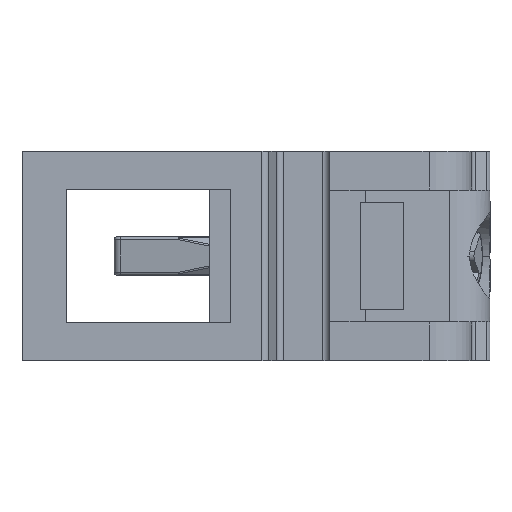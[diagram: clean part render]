
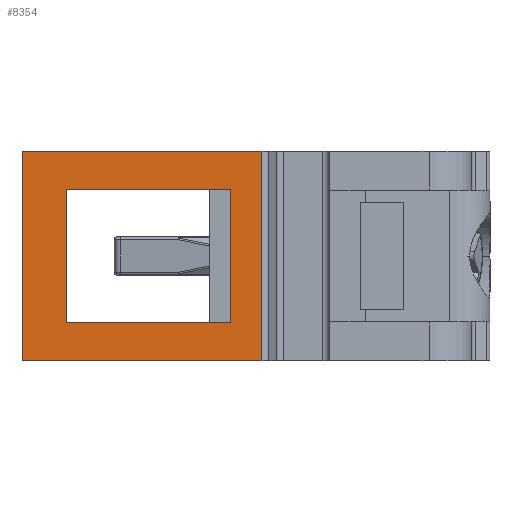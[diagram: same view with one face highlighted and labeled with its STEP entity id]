
A CAD part, left-side view. The second image highlights one B-rep face of the part: STEP entity #8354.
In plain terms, the highlighted planar face has unit normal (-1, 0, 0).
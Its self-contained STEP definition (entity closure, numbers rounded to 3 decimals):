
#47 = EDGE_LOOP ( 'NONE', ( #3746, #9221, #2191, #359 ) ) ;
#337 = VERTEX_POINT ( 'NONE', #1278 ) ;
#359 = ORIENTED_EDGE ( 'NONE', *, *, #8334, .T. ) ;
#480 = CARTESIAN_POINT ( 'NONE',  ( -17.5, 0., 4.7 ) ) ;
#800 = CARTESIAN_POINT ( 'NONE',  ( -17.5, 14.7, -7.4 ) ) ;
#914 = VERTEX_POINT ( 'NONE', #5639 ) ;
#1269 = CARTESIAN_POINT ( 'NONE',  ( -17.5, 11.55, -4.7 ) ) ;
#1278 = CARTESIAN_POINT ( 'NONE',  ( -17.5, 14.7, -7.4 ) ) ;
#1473 = VERTEX_POINT ( 'NONE', #1269 ) ;
#1784 = CARTESIAN_POINT ( 'NONE',  ( -17.5, 14.7, 7.4 ) ) ;
#1801 = VECTOR ( 'NONE', #10841, 1000. ) ;
#2105 = DIRECTION ( 'NONE',  ( -1., 0., 0. ) ) ;
#2144 = ORIENTED_EDGE ( 'NONE', *, *, #6770, .T. ) ;
#2191 = ORIENTED_EDGE ( 'NONE', *, *, #8098, .T. ) ;
#2198 = CARTESIAN_POINT ( 'NONE',  ( -17.5, -2.216, 7.4 ) ) ;
#2471 = CARTESIAN_POINT ( 'NONE',  ( -17.5, 0., 4.7 ) ) ;
#2475 = LINE ( 'NONE', #800, #9060 ) ;
#2808 = CARTESIAN_POINT ( 'NONE',  ( -17.5, 11.55, -4.7 ) ) ;
#3037 = VECTOR ( 'NONE', #8425, 1000. ) ;
#3365 = DIRECTION ( 'NONE',  ( 0., 0., -1. ) ) ;
#3396 = ORIENTED_EDGE ( 'NONE', *, *, #7280, .F. ) ;
#3685 = VERTEX_POINT ( 'NONE', #480 ) ;
#3705 = DIRECTION ( 'NONE',  ( 0., 1., 0. ) ) ;
#3746 = ORIENTED_EDGE ( 'NONE', *, *, #6214, .T. ) ;
#3840 = PLANE ( 'NONE',  #10777 ) ;
#4113 = LINE ( 'NONE', #6285, #8614 ) ;
#4340 = CARTESIAN_POINT ( 'NONE',  ( -17.5, -2.216, 7.4 ) ) ;
#4392 = DIRECTION ( 'NONE',  ( 0., 0., 1. ) ) ;
#4765 = DIRECTION ( 'NONE',  ( 0., -1., 0. ) ) ;
#4767 = ORIENTED_EDGE ( 'NONE', *, *, #7558, .T. ) ;
#4860 = LINE ( 'NONE', #10314, #11314 ) ;
#4894 = CARTESIAN_POINT ( 'NONE',  ( -17.5, 11.55, 4.7 ) ) ;
#5413 = LINE ( 'NONE', #2198, #3037 ) ;
#5639 = CARTESIAN_POINT ( 'NONE',  ( -17.5, 0., -4.7 ) ) ;
#5653 = CARTESIAN_POINT ( 'NONE',  ( -17.5, -2.216, -7.4 ) ) ;
#5792 = VECTOR ( 'NONE', #3705, 1000. ) ;
#5993 = FACE_OUTER_BOUND ( 'NONE', #6481, .T. ) ;
#6214 = EDGE_CURVE ( 'NONE', #3685, #914, #7089, .T. ) ;
#6266 = FACE_BOUND ( 'NONE', #47, .T. ) ;
#6285 = CARTESIAN_POINT ( 'NONE',  ( -17.5, -2.216, -7.4 ) ) ;
#6465 = CARTESIAN_POINT ( 'NONE',  ( -17.5, 11.55, 4.7 ) ) ;
#6481 = EDGE_LOOP ( 'NONE', ( #4767, #10304, #3396, #2144 ) ) ;
#6496 = EDGE_CURVE ( 'NONE', #914, #1473, #9708, .T. ) ;
#6770 = EDGE_CURVE ( 'NONE', #337, #10979, #4860, .T. ) ;
#6851 = LINE ( 'NONE', #6465, #1801 ) ;
#6938 = VERTEX_POINT ( 'NONE', #1784 ) ;
#7068 = EDGE_CURVE ( 'NONE', #6938, #9320, #5413, .T. ) ;
#7089 = LINE ( 'NONE', #2471, #8911 ) ;
#7280 = EDGE_CURVE ( 'NONE', #337, #6938, #2475, .T. ) ;
#7440 = CARTESIAN_POINT ( 'NONE',  ( -17.5, -2.216, -7.4 ) ) ;
#7558 = EDGE_CURVE ( 'NONE', #10979, #9320, #4113, .T. ) ;
#8098 = EDGE_CURVE ( 'NONE', #1473, #8718, #10416, .T. ) ;
#8334 = EDGE_CURVE ( 'NONE', #8718, #3685, #6851, .T. ) ;
#8354 = ADVANCED_FACE ( 'NONE', ( #5993, #6266 ), #3840, .T. ) ;
#8425 = DIRECTION ( 'NONE',  ( 0., -1., 0. ) ) ;
#8614 = VECTOR ( 'NONE', #9016, 1000. ) ;
#8718 = VERTEX_POINT ( 'NONE', #4894 ) ;
#8911 = VECTOR ( 'NONE', #3365, 1000. ) ;
#9016 = DIRECTION ( 'NONE',  ( 0., 0., 1. ) ) ;
#9060 = VECTOR ( 'NONE', #4392, 1000. ) ;
#9221 = ORIENTED_EDGE ( 'NONE', *, *, #6496, .T. ) ;
#9318 = CARTESIAN_POINT ( 'NONE',  ( -17.5, 11.55, 4.7 ) ) ;
#9320 = VERTEX_POINT ( 'NONE', #4340 ) ;
#9708 = LINE ( 'NONE', #2808, #5792 ) ;
#10140 = DIRECTION ( 'NONE',  ( 0., 0., 1. ) ) ;
#10159 = VECTOR ( 'NONE', #10140, 1000. ) ;
#10304 = ORIENTED_EDGE ( 'NONE', *, *, #7068, .F. ) ;
#10314 = CARTESIAN_POINT ( 'NONE',  ( -17.5, -2.216, -7.4 ) ) ;
#10416 = LINE ( 'NONE', #9318, #10159 ) ;
#10777 = AXIS2_PLACEMENT_3D ( 'NONE', #7440, #2105, #4765 ) ;
#10841 = DIRECTION ( 'NONE',  ( 0., -1., 0. ) ) ;
#10979 = VERTEX_POINT ( 'NONE', #5653 ) ;
#11155 = DIRECTION ( 'NONE',  ( 0., -1., 0. ) ) ;
#11314 = VECTOR ( 'NONE', #11155, 1000. ) ;
